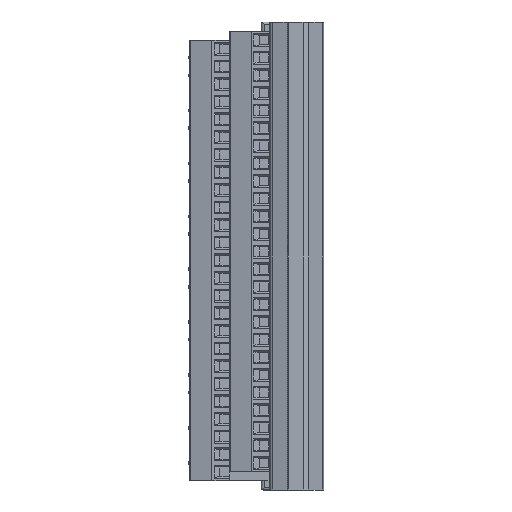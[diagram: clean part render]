
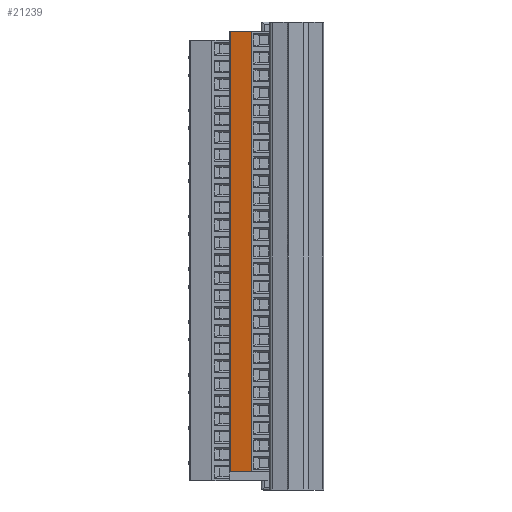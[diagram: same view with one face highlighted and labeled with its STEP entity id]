
A CAD part, left-side view. The second image highlights one B-rep face of the part: STEP entity #21239.
In plain terms, the highlighted planar face has unit normal (-0.974, 0.228, 0).
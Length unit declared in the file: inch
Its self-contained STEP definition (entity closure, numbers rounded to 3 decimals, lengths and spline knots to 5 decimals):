
#3422=DIRECTION('',(-0.228,-0.974,0.));
#3423=VECTOR('',#3422,0.24631);
#3424=CARTESIAN_POINT('',(-1.24411,-3.85871,
4.76506));
#3425=LINE('',#3424,#3423);
#3455=DIRECTION('',(0.,0.,-1.));
#3456=VECTOR('',#3455,5.);
#3457=CARTESIAN_POINT('',(-1.30031,-4.09852,
4.76506));
#3458=LINE('',#3457,#3456);
#3463=DIRECTION('',(0.,0.,-1.));
#3464=VECTOR('',#3463,5.);
#3465=CARTESIAN_POINT('',(-1.24411,-3.85871,
4.76506));
#3466=LINE('',#3465,#3464);
#4204=DIRECTION('',(0.228,0.974,0.));
#4205=VECTOR('',#4204,0.24631);
#4206=CARTESIAN_POINT('',(-1.30031,-4.09852,
-0.23494));
#4207=LINE('',#4206,#4205);
#13823=CARTESIAN_POINT('',(-1.30031,-4.09852,
-0.23494));
#13825=VERTEX_POINT('',#13823);
#13826=CARTESIAN_POINT('',(-1.24411,-3.85871,
-0.23494));
#13827=VERTEX_POINT('',#13826);
#16355=CARTESIAN_POINT('',(-1.30031,-4.09852,
4.76506));
#16357=VERTEX_POINT('',#16355);
#16358=CARTESIAN_POINT('',(-1.24411,-3.85871,
4.76506));
#16359=VERTEX_POINT('',#16358);
#21226=CARTESIAN_POINT('',(-1.24411,-3.85871,
0.06191));
#21227=DIRECTION('',(-0.974,0.228,0.));
#21228=DIRECTION('',(0.228,0.974,0.));
#21229=AXIS2_PLACEMENT_3D('',#21226,#21227,#21228);
#21230=PLANE('',#21229);
#21232=ORIENTED_EDGE('',*,*,#21231,.F.);
#21233=ORIENTED_EDGE('',*,*,#20931,.T.);
#21234=ORIENTED_EDGE('',*,*,#21217,.T.);
#21236=ORIENTED_EDGE('',*,*,#21235,.T.);
#21237=EDGE_LOOP('',(#21232,#21233,#21234,#21236));
#21238=FACE_OUTER_BOUND('',#21237,.F.);
#21239=ADVANCED_FACE('',(#21238),#21230,.T.);
#20931=EDGE_CURVE('',#16359,#16357,#3425,.T.);
#21217=EDGE_CURVE('',#16357,#13825,#3458,.T.);
#21231=EDGE_CURVE('',#16359,#13827,#3466,.T.);
#21235=EDGE_CURVE('',#13825,#13827,#4207,.T.);
